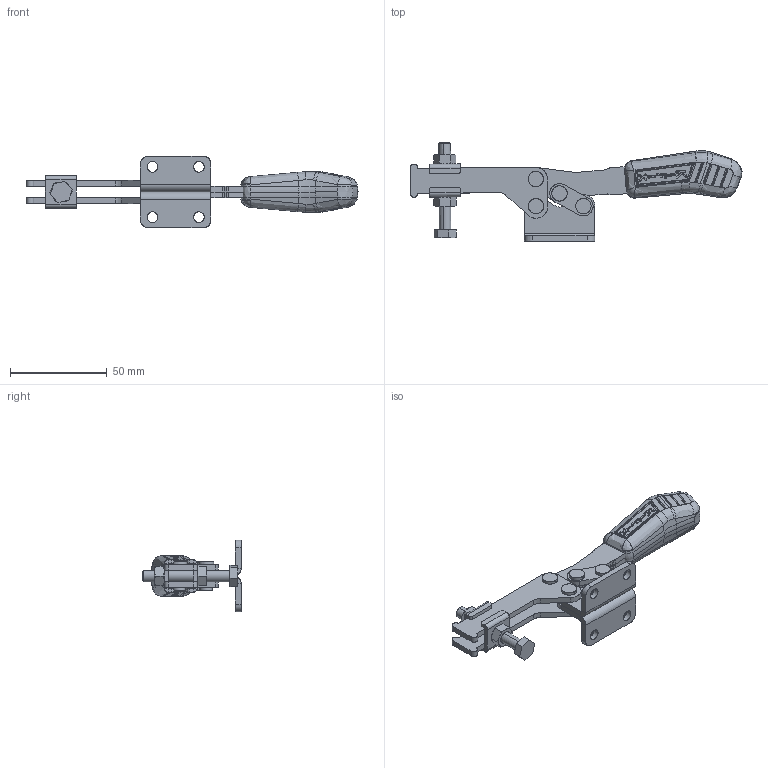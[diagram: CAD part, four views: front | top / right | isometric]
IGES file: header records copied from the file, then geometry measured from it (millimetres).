
Start section: SolidWorks IGES file using analytic representation for surfaces
Global section: file name: C:\Projetos\Grampos\KF-511\KF-511 D\KF-511 D.IGS; native system: SolidWorks 2013; preprocessor: SolidWorks 2013; author: Ricardo; date: 140818.092344; units: millimetre
Bounding box: 171.55 x 50.84 x 37 mm (x, y, z)
Surface area: 31099.5 mm2 (no closed solid volume)
Topology: 0 solids, 0 shells, 946 faces, 9926 edges, 9865 vertices
Faces by surface type: bspline 542, revolution 404
